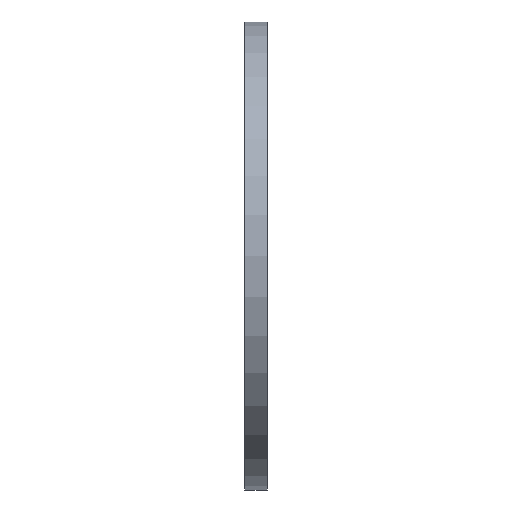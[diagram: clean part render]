
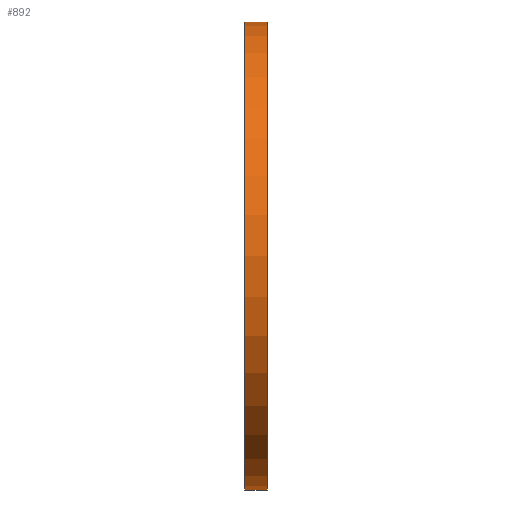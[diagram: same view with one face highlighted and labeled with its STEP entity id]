
A CAD part, left-side view. The second image highlights one B-rep face of the part: STEP entity #892.
In plain terms, the highlighted cylindrical face has radius 212.5 mm (diameter 425 mm), a partial arc.
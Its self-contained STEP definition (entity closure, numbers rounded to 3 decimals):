
#25 = DIRECTION ( 'NONE',  ( 0., 0., -1. ) ) ;
#31 = CARTESIAN_POINT ( 'NONE',  ( 0., 20., 0. ) ) ;
#40 = LINE ( 'NONE', #588, #339 ) ;
#125 = DIRECTION ( 'NONE',  ( 0., -1., 0. ) ) ;
#133 = FACE_OUTER_BOUND ( 'NONE', #444, .T. ) ;
#162 = CIRCLE ( 'NONE', #518, 212.5 ) ;
#215 = CYLINDRICAL_SURFACE ( 'NONE', #603, 212.5 ) ;
#283 = VERTEX_POINT ( 'NONE', #334 ) ;
#284 = EDGE_CURVE ( 'NONE', #1036, #1021, #40, .T. ) ;
#304 = ORIENTED_EDGE ( 'NONE', *, *, #343, .T. ) ;
#334 = CARTESIAN_POINT ( 'NONE',  ( 0., 0., -212.5 ) ) ;
#339 = VECTOR ( 'NONE', #980, 1000. ) ;
#343 = EDGE_CURVE ( 'NONE', #1036, #1090, #162, .T. ) ;
#366 = CARTESIAN_POINT ( 'NONE',  ( 0., 0., -212.5 ) ) ;
#383 = CARTESIAN_POINT ( 'NONE',  ( 0., 0., 0. ) ) ;
#426 = ORIENTED_EDGE ( 'NONE', *, *, #874, .F. ) ;
#444 = EDGE_LOOP ( 'NONE', ( #760, #304, #979, #426 ) ) ;
#518 = AXIS2_PLACEMENT_3D ( 'NONE', #31, #647, #25 ) ;
#588 = CARTESIAN_POINT ( 'NONE',  ( 0., 0., 212.5 ) ) ;
#603 = AXIS2_PLACEMENT_3D ( 'NONE', #951, #125, #1030 ) ;
#647 = DIRECTION ( 'NONE',  ( 0., -1., 0. ) ) ;
#654 = DIRECTION ( 'NONE',  ( 0., -1., 0. ) ) ;
#723 = LINE ( 'NONE', #366, #1168 ) ;
#756 = AXIS2_PLACEMENT_3D ( 'NONE', #383, #654, #1039 ) ;
#759 = EDGE_CURVE ( 'NONE', #1090, #283, #723, .T. ) ;
#760 = ORIENTED_EDGE ( 'NONE', *, *, #284, .F. ) ;
#762 = CARTESIAN_POINT ( 'NONE',  ( 0., 20., -212.5 ) ) ;
#874 = EDGE_CURVE ( 'NONE', #1021, #283, #1071, .T. ) ;
#892 = ADVANCED_FACE ( 'NONE', ( #133 ), #215, .T. ) ;
#942 = CARTESIAN_POINT ( 'NONE',  ( 0., 0., 212.5 ) ) ;
#951 = CARTESIAN_POINT ( 'NONE',  ( 0., 0., 0. ) ) ;
#979 = ORIENTED_EDGE ( 'NONE', *, *, #759, .T. ) ;
#980 = DIRECTION ( 'NONE',  ( 0., -1., 0. ) ) ;
#1021 = VERTEX_POINT ( 'NONE', #942 ) ;
#1030 = DIRECTION ( 'NONE',  ( 0., 0., -1. ) ) ;
#1036 = VERTEX_POINT ( 'NONE', #1134 ) ;
#1039 = DIRECTION ( 'NONE',  ( 0., 0., -1. ) ) ;
#1071 = CIRCLE ( 'NONE', #756, 212.5 ) ;
#1090 = VERTEX_POINT ( 'NONE', #762 ) ;
#1107 = DIRECTION ( 'NONE',  ( 0., -1., 0. ) ) ;
#1134 = CARTESIAN_POINT ( 'NONE',  ( 0., 20., 212.5 ) ) ;
#1168 = VECTOR ( 'NONE', #1107, 1000. ) ;
